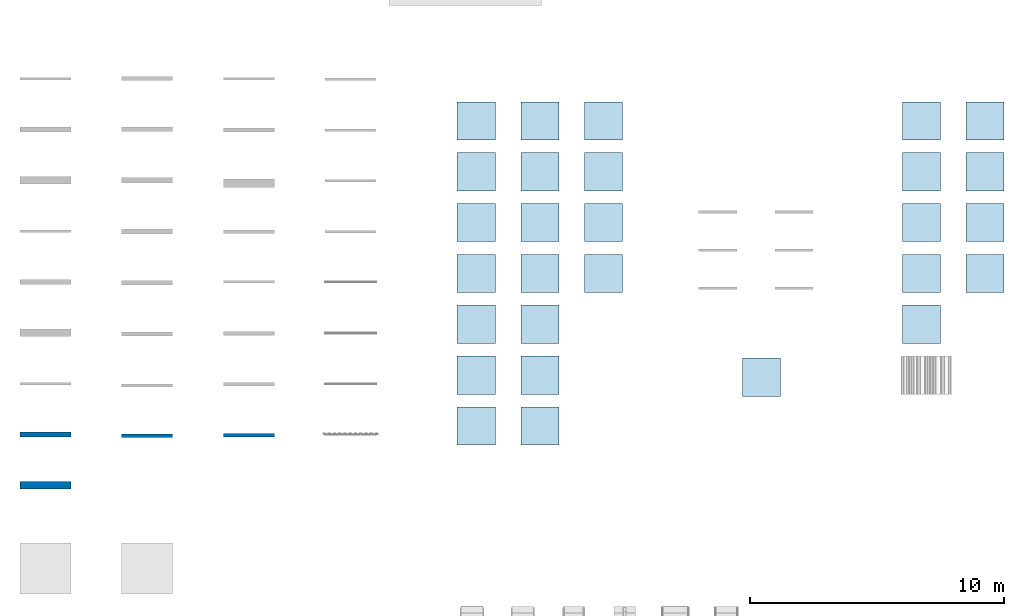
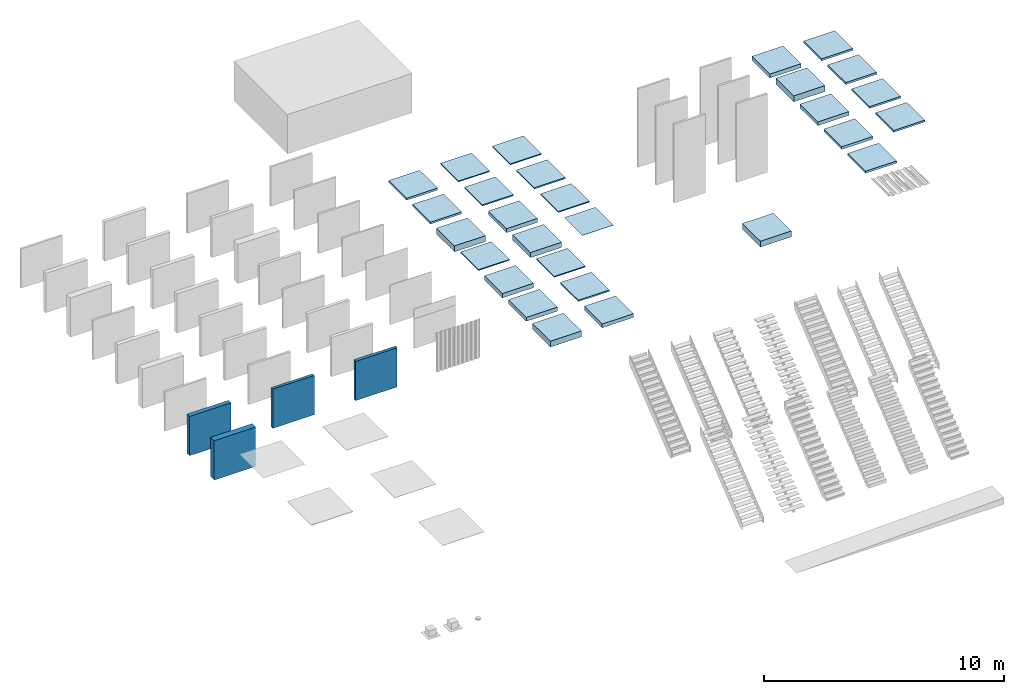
# One storey, part 1 of 11: 28 slabs, 4 walls, 9 elements without a shape of their own.
"""IFC2X3 building model written with IfcOpenShell, lengths in millimetres."""

from ifc_helpers import new_model, entity, si_unit, converted_unit, derived_unit, direction, frame, frame_2d, origin, origin_2d_with_axis, place, context, subcontext, project, spatial, rectangle, extrude, material, layer, layer_set, layer_usage, type_object, element, aggregate, save


model = new_model("IFC2X3")

# Units and contexts
model_context = context("Model", 3, precision=0.01, world=origin(), true_north=direction((6.12303176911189e-17, 1.0)))
body_context = subcontext(model_context, "Body", "Model", "MODEL_VIEW")
ifc_project = project(units=[si_unit("LENGTHUNIT", "METRE", prefix="MILLI"), si_unit("AREAUNIT", "SQUARE_METRE"), si_unit("VOLUMEUNIT", "CUBIC_METRE"), converted_unit("PLANEANGLEUNIT", "DEGREE", entity("IfcRatioMeasure", 0.0174532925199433), si_unit("PLANEANGLEUNIT", "RADIAN"), dimensions=[0, 0, 0, 0, 0, 0, 0]), si_unit("MASSUNIT", "GRAM", prefix="KILO"), si_unit("TIMEUNIT", "SECOND"), si_unit("FREQUENCYUNIT", "HERTZ"), si_unit("THERMODYNAMICTEMPERATUREUNIT", "KELVIN"), derived_unit("THERMALTRANSMITTANCEUNIT", [(si_unit("MASSUNIT", "GRAM", prefix="KILO"), 1), (si_unit("THERMODYNAMICTEMPERATUREUNIT", "KELVIN"), -1), (si_unit("TIMEUNIT", "SECOND"), -3)]), derived_unit("VOLUMETRICFLOWRATEUNIT", [(si_unit("LENGTHUNIT", "METRE"), 3), (si_unit("TIMEUNIT", "SECOND"), -1)]), si_unit("ELECTRICCURRENTUNIT", "AMPERE"), si_unit("ELECTRICVOLTAGEUNIT", "VOLT"), si_unit("POWERUNIT", "WATT")], contexts=[model_context])

# Site, building, storey
site_placement = place(None, origin())
site = spatial("IfcSite", under=ifc_project, at=site_placement, Name="Surface:5707", CompositionType="ELEMENT")
building_placement = place(site_placement, origin())
building = spatial("IfcBuilding", under=site, at=building_placement, CompositionType="ELEMENT")
storey_placement = place(building_placement, origin())
storey = spatial("IfcBuildingStorey", under=building, at=storey_placement, Name="00_begane grond", CompositionType="ELEMENT", Elevation=0.0)

# Roof, slab
ifc_material_1 = material(Name="Default Roof")
roof_1_placement = place(storey_placement, frame((34693.3473849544, -3415.0, 0.0)))
roof_1 = element("IfcRoof", 1, at=roof_1_placement, inside=storey, material=ifc_material_1, Name="Basic Roof:27_RO_generiek_200:27_RO_generiek_200 : Basic Roof:27_RO_generiek_200:4205", ObjectType="Basic Roof:27_RO_generiek_200:Basic Roof:27_RO_generiek_200:4203", ShapeType="NOTDEFINED")
slab_1_placement = place(storey_placement, frame((34693.3473849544, -3415.0, 0.0)))
slab_1 = element("IfcSlab", 2, at=slab_1_placement, material=ifc_material_1, Name="Basic Roof:27_RO_generiek_200:27_RO_generiek_200 : Basic Roof:27_RO_generiek_200:4205:1", ObjectType="Basic Roof:27_RO_generiek_200:Basic Roof:27_RO_generiek_200:4203", PredefinedType="ROOF", context=body_context, shape_type="SweptSolid", body=[
    extrude(rectangle(XDim=1500.0, YDim=1500.0, at=frame_2d((0.0, 2.1600499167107e-12), x_axis=(1.0, 0.0))), frame((750.0, 750.0, 0.0), z_axis=(0.0, 0.0, 1.0), x_axis=(0.0, 1.0, 0.0)), (0.0, 0.0, 1.0), 200.0),
])
aggregate(roof_1, [slab_1])

roof_2_placement = place(storey_placement, frame((34693.3473849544, -5415.0, 0.0)))
roof_2 = element("IfcRoof", 3, at=roof_2_placement, inside=storey, material=ifc_material_1, Name="Basic Roof:27_RO_generiek_300:27_RO_generiek_300 : Basic Roof:27_RO_generiek_300:4222", ObjectType="Basic Roof:27_RO_generiek_300:Basic Roof:27_RO_generiek_300:4220", ShapeType="NOTDEFINED")
slab_2_placement = place(storey_placement, frame((34693.3473849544, -5415.0, 0.0)))
slab_2 = element("IfcSlab", 4, at=slab_2_placement, material=ifc_material_1, Name="Basic Roof:27_RO_generiek_300:27_RO_generiek_300 : Basic Roof:27_RO_generiek_300:4222:1", ObjectType="Basic Roof:27_RO_generiek_300:Basic Roof:27_RO_generiek_300:4220", PredefinedType="ROOF", context=body_context, shape_type="SweptSolid", body=[
    extrude(rectangle(XDim=1500.0, YDim=1500.0, at=frame_2d((-5.11590769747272e-13, 2.1600499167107e-12), x_axis=(1.0, 0.0))), frame((750.0, 750.0, 0.0), z_axis=(0.0, 0.0, 1.0), x_axis=(0.0, 1.0, 0.0)), (0.0, 0.0, 1.0), 300.0),
])
aggregate(roof_2, [slab_2])

roof_3_placement = place(storey_placement, frame((37193.3473849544, -3415.0, 0.0)))
roof_3 = element("IfcRoof", 5, at=roof_3_placement, inside=storey, material=ifc_material_1, Name="Basic Roof:47_RO_isolatie_PIR_bitumen_82_80-2:47_RO_isolatie_PIR_bitumen_82_80-2 : Basic Roof:47_RO_isolatie_PIR_bitumen_82_80-2:4236", ObjectType="Basic Roof:47_RO_isolatie_PIR_bitumen_82_80-2:Basic Roof:47_RO_isolatie_PIR_bitumen_82_80-2:4234", ShapeType="NOTDEFINED")
slab_3_placement = place(storey_placement, frame((37193.3473849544, -3415.0, 0.0)))
slab_3 = element("IfcSlab", 6, at=slab_3_placement, material=ifc_material_1, Name="Basic Roof:47_RO_isolatie_PIR_bitumen_82_80-2:47_RO_isolatie_PIR_bitumen_82_80-2 : Basic Roof:47_RO_isolatie_PIR_bitumen_82_80-2:4236:1", ObjectType="Basic Roof:47_RO_isolatie_PIR_bitumen_82_80-2:Basic Roof:47_RO_isolatie_PIR_bitumen_82_80-2:4234", PredefinedType="ROOF", context=body_context, shape_type="SweptSolid", body=[
    extrude(rectangle(XDim=1500.0, YDim=1500.0, at=frame_2d((0.0, -2.1600499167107e-12), x_axis=(1.0, 0.0))), frame((750.0, 750.0, 0.0), z_axis=(0.0, 0.0, 1.0), x_axis=(0.0, 1.0, 0.0)), (0.0, 0.0, 1.0), 102.0),
])
aggregate(roof_3, [slab_3])

roof_4_placement = place(storey_placement, frame((37193.3473849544, -5415.0, 0.0)))
roof_4 = element("IfcRoof", 7, at=roof_4_placement, inside=storey, material=ifc_material_1, Name="Basic Roof:47_RO_isolatie_EPS_bitumen_102_100-2:47_RO_isolatie_EPS_bitumen_102_100-2 : Basic Roof:47_RO_isolatie_EPS_bitumen_102_100-2:4252", ObjectType="Basic Roof:47_RO_isolatie_EPS_bitumen_102_100-2:Basic Roof:47_RO_isolatie_EPS_bitumen_102_100-2:4250", ShapeType="NOTDEFINED")
slab_4_placement = place(storey_placement, frame((37193.3473849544, -5415.0, 0.0)))
slab_4 = element("IfcSlab", 8, at=slab_4_placement, material=ifc_material_1, Name="Basic Roof:47_RO_isolatie_EPS_bitumen_102_100-2:47_RO_isolatie_EPS_bitumen_102_100-2 : Basic Roof:47_RO_isolatie_EPS_bitumen_102_100-2:4252:1", ObjectType="Basic Roof:47_RO_isolatie_EPS_bitumen_102_100-2:Basic Roof:47_RO_isolatie_EPS_bitumen_102_100-2:4250", PredefinedType="ROOF", context=body_context, shape_type="SweptSolid", body=[
    extrude(rectangle(XDim=1500.0, YDim=1500.0, at=frame_2d((-5.11590769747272e-13, -2.1600499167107e-12), x_axis=(1.0, 0.0))), frame((750.0, 750.0, 0.0), z_axis=(0.0, 0.0, 1.0), x_axis=(0.0, 1.0, 0.0)), (0.0, 0.0, 1.0), 102.0),
])
aggregate(roof_4, [slab_4])

roof_5_placement = place(storey_placement, frame((34693.3473849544, -7415.0, 0.0)))
roof_5 = element("IfcRoof", 9, at=roof_5_placement, inside=storey, material=ifc_material_1, Name="Basic Roof:27_RO_hout_underlayment_189_171-18:27_RO_hout_underlayment_189_171-18 : Basic Roof:27_RO_hout_underlayment_189_171-18:4266", ObjectType="Basic Roof:27_RO_hout_underlayment_189_171-18:Basic Roof:27_RO_hout_underlayment_189_171-18:4264", ShapeType="NOTDEFINED")
slab_5_placement = place(storey_placement, frame((34693.3473849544, -7415.0, 0.0)))
slab_5 = element("IfcSlab", 10, at=slab_5_placement, material=ifc_material_1, Name="Basic Roof:27_RO_hout_underlayment_189_171-18:27_RO_hout_underlayment_189_171-18 : Basic Roof:27_RO_hout_underlayment_189_171-18:4266:1", ObjectType="Basic Roof:27_RO_hout_underlayment_189_171-18:Basic Roof:27_RO_hout_underlayment_189_171-18:4264", PredefinedType="ROOF", context=body_context, shape_type="SweptSolid", body=[
    extrude(rectangle(XDim=1500.0, YDim=1500.0, at=frame_2d((5.11590769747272e-13, 2.1600499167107e-12), x_axis=(1.0, 0.0))), frame((750.0, 750.0, 0.0), z_axis=(0.0, 0.0, 1.0), x_axis=(0.0, 1.0, 0.0)), (0.0, 0.0, 1.0), 189.0),
])
aggregate(roof_5, [slab_5])

roof_6_placement = place(storey_placement, frame((34693.3473849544, -9415.0, 0.0)))
roof_6 = element("IfcRoof", 11, at=roof_6_placement, inside=storey, material=ifc_material_1, Name="Basic Roof:27_RO_dakplaat_enkelschalig_PIR_135_33-90-12:27_RO_dakplaat_enkelschalig_PIR_135_33-90-12 : Basic Roof:27_RO_dakplaat_enkelschalig_PIR_135_33-90-12:4280", ObjectType="Basic Roof:27_RO_dakplaat_enkelschalig_PIR_135_33-90-12:Basic Roof:27_RO_dakplaat_enkelschalig_PIR_135_33-90-12:4278", ShapeType="NOTDEFINED")
slab_6_placement = place(storey_placement, frame((34693.3473849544, -9415.0, 0.0)))
slab_6 = element("IfcSlab", 12, at=slab_6_placement, material=ifc_material_1, Name="Basic Roof:27_RO_dakplaat_enkelschalig_PIR_135_33-90-12:27_RO_dakplaat_enkelschalig_PIR_135_33-90-12 : Basic Roof:27_RO_dakplaat_enkelschalig_PIR_135_33-90-12:4280:1", ObjectType="Basic Roof:27_RO_dakplaat_enkelschalig_PIR_135_33-90-12:Basic Roof:27_RO_dakplaat_enkelschalig_PIR_135_33-90-12:4278", PredefinedType="ROOF", context=body_context, shape_type="SweptSolid", body=[
    extrude(rectangle(XDim=1500.0, YDim=1500.0, at=frame_2d((5.11590769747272e-13, 2.1600499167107e-12), x_axis=(1.0, 0.0))), frame((750.0, 750.0, 0.0), z_axis=(0.0, 0.0, 1.0), x_axis=(0.0, 1.0, 0.0)), (0.0, 0.0, 1.0), 135.0),
])
aggregate(roof_6, [slab_6])

roof_7_placement = place(storey_placement, frame((37193.3473849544, -7415.0, 0.0)))
roof_7 = element("IfcRoof", 13, at=roof_7_placement, inside=storey, material=ifc_material_1, Name="Basic Roof:47_RO_dakpan_grijs_300x300:47_RO_dakpan_grijs_300x300 : Basic Roof:47_RO_dakpan_grijs_300x300:4294", ObjectType="Basic Roof:47_RO_dakpan_grijs_300x300:Basic Roof:47_RO_dakpan_grijs_300x300:4292", ShapeType="NOTDEFINED")
slab_7_placement = place(storey_placement, frame((37193.3473849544, -7415.0, 0.0)))
slab_7 = element("IfcSlab", 14, at=slab_7_placement, material=ifc_material_1, Name="Basic Roof:47_RO_dakpan_grijs_300x300:47_RO_dakpan_grijs_300x300 : Basic Roof:47_RO_dakpan_grijs_300x300:4294:1", ObjectType="Basic Roof:47_RO_dakpan_grijs_300x300:Basic Roof:47_RO_dakpan_grijs_300x300:4292", PredefinedType="ROOF", context=body_context, shape_type="SweptSolid", body=[
    extrude(rectangle(XDim=1500.0, YDim=1500.0, at=frame_2d((5.11590769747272e-13, -2.1600499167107e-12), x_axis=(1.0, 0.0))), frame((750.0, 750.0, 0.0), z_axis=(0.0, 0.0, 1.0), x_axis=(0.0, 1.0, 0.0)), (0.0, 0.0, 1.0), 92.0),
])
aggregate(roof_7, [slab_7])

roof_8_placement = place(storey_placement, frame((37193.3473849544, -9415.0, 0.0)))
roof_8 = element("IfcRoof", 15, at=roof_8_placement, inside=storey, material=ifc_material_1, Name="Basic Roof:47_RO_dakpan_rood_300x300:47_RO_dakpan_rood_300x300 : Basic Roof:47_RO_dakpan_rood_300x300:4308", ObjectType="Basic Roof:47_RO_dakpan_rood_300x300:Basic Roof:47_RO_dakpan_rood_300x300:4306", ShapeType="NOTDEFINED")
slab_8_placement = place(storey_placement, frame((37193.3473849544, -9415.0, 0.0)))
slab_8 = element("IfcSlab", 16, at=slab_8_placement, material=ifc_material_1, Name="Basic Roof:47_RO_dakpan_rood_300x300:47_RO_dakpan_rood_300x300 : Basic Roof:47_RO_dakpan_rood_300x300:4308:1", ObjectType="Basic Roof:47_RO_dakpan_rood_300x300:Basic Roof:47_RO_dakpan_rood_300x300:4306", PredefinedType="ROOF", context=body_context, shape_type="SweptSolid", body=[
    extrude(rectangle(XDim=1500.0, YDim=1500.0, at=frame_2d((5.11590769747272e-13, -2.1600499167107e-12), x_axis=(1.0, 0.0))), frame((750.0, 750.0, 0.0), z_axis=(0.0, 0.0, 1.0), x_axis=(0.0, 1.0, 0.0)), (0.0, 0.0, 1.0), 92.0),
])
aggregate(roof_8, [slab_8])

roof_9_placement = place(storey_placement, frame((34693.3473849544, -11415.0, 0.0)))
roof_9 = element("IfcRoof", 17, at=roof_9_placement, inside=storey, material=ifc_material_1, Name="Basic Roof:27_RO_dakplaat_sandwich_PIR_106_20-3-80-3:27_RO_dakplaat_sandwich_PIR_106_20-3-80-3 : Basic Roof:27_RO_dakplaat_sandwich_PIR_106_20-3-80-3:4322", ObjectType="Basic Roof:27_RO_dakplaat_sandwich_PIR_106_20-3-80-3:Basic Roof:27_RO_dakplaat_sandwich_PIR_106_20-3-80-3:4320", ShapeType="NOTDEFINED")
slab_9_placement = place(storey_placement, frame((34693.3473849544, -11415.0, 0.0)))
slab_9 = element("IfcSlab", 18, at=slab_9_placement, material=ifc_material_1, Name="Basic Roof:27_RO_dakplaat_sandwich_PIR_106_20-3-80-3:27_RO_dakplaat_sandwich_PIR_106_20-3-80-3 : Basic Roof:27_RO_dakplaat_sandwich_PIR_106_20-3-80-3:4322:1", ObjectType="Basic Roof:27_RO_dakplaat_sandwich_PIR_106_20-3-80-3:Basic Roof:27_RO_dakplaat_sandwich_PIR_106_20-3-80-3:4320", PredefinedType="ROOF", context=body_context, shape_type="SweptSolid", body=[
    extrude(rectangle(XDim=1500.0, YDim=1500.0, at=frame_2d((1.08002495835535e-12, 2.1600499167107e-12), x_axis=(1.0, 0.0))), frame((750.0, 750.0, 0.0), z_axis=(0.0, 0.0, 1.0), x_axis=(0.0, 1.0, 0.0)), (0.0, 0.0, 1.0), 106.0),
])
aggregate(roof_9, [slab_9])

# Slabs
ifc_material_2 = material(Name="Default")
ifc_layer_1 = layer(ifc_material_2, 100.0)
ifc_layer_set_1 = layer_set([ifc_layer_1], Name="Floor:Floor:13_FL_generiek_100")
ifc_layer_usage_1 = layer_usage(ifc_layer_set_1, "AXIS3", "POSITIVE", 0.0)
slab_10_placement = place(storey_placement, origin())
element("IfcSlab", 19, at=slab_10_placement, inside=storey, material=ifc_layer_usage_1, Name="Floor:Floor:13_FL_generiek_100:5911", ObjectType="Floor:Floor:13_FL_generiek_100", PredefinedType="FLOOR", context=body_context, shape_type="SweptSolid", body=[
    extrude(rectangle(XDim=1500.0, YDim=1500.0, at=frame_2d((0.0, -1.08002495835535e-12), x_axis=(1.0, 0.0))), frame((17943.3473849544, -2665.0, 0.0), z_axis=(0.0, 0.0, -1.0), x_axis=(0.0, 1.0, 0.0)), (0.0, 0.0, 1.0), 100.0),
])
ifc_layer_2 = layer(ifc_material_2, 100.0)
ifc_layer_set_2 = layer_set([ifc_layer_2], Name="Floor:Floor:23_FL_generiek_100")
ifc_layer_usage_2 = layer_usage(ifc_layer_set_2, "AXIS3", "POSITIVE", 0.0)
slab_11_placement = place(storey_placement, origin())
element("IfcSlab", 20, at=slab_11_placement, inside=storey, material=ifc_layer_usage_2, Name="Floor:Floor:23_FL_generiek_100:5928", ObjectType="Floor:Floor:23_FL_generiek_100", PredefinedType="FLOOR", context=body_context, shape_type="SweptSolid", body=[
    extrude(rectangle(XDim=1500.0, YDim=1500.0, at=frame_2d((-5.11590769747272e-13, -1.08002495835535e-12), x_axis=(1.0, 0.0))), frame((17943.3473849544, -4665.0, 0.0), z_axis=(0.0, 0.0, -1.0), x_axis=(0.0, 1.0, 0.0)), (0.0, 0.0, 1.0), 100.0),
])
ifc_layer_3 = layer(ifc_material_2, 300.0)
ifc_layer_set_3 = layer_set([ifc_layer_3], Name="Floor:Floor:23_FL_generiek_300")
ifc_layer_usage_3 = layer_usage(ifc_layer_set_3, "AXIS3", "POSITIVE", 0.0)
slab_12_placement = place(storey_placement, origin())
element("IfcSlab", 21, at=slab_12_placement, inside=storey, material=ifc_layer_usage_3, Name="Floor:Floor:23_FL_generiek_300:5936", ObjectType="Floor:Floor:23_FL_generiek_300", PredefinedType="FLOOR", context=body_context, shape_type="SweptSolid", body=[
    extrude(rectangle(XDim=1500.0, YDim=1500.0, at=frame_2d((5.11590769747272e-13, -1.08002495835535e-12), x_axis=(1.0, 0.0))), frame((17943.3473849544, -6665.0, 0.0), z_axis=(0.0, 0.0, -1.0), x_axis=(0.0, 1.0, 0.0)), (0.0, 0.0, 1.0), 300.0),
])
ifc_material_3 = material(Name="11_werkvloer_stampbeton")
ifc_layer_4 = layer(ifc_material_3, 50.0)
ifc_layer_set_4 = layer_set([ifc_layer_4], Name="Floor:Floor:11_FL_werkvloer_stampbeton_50")
ifc_layer_usage_4 = layer_usage(ifc_layer_set_4, "AXIS3", "POSITIVE", 0.0)
slab_13_placement = place(storey_placement, origin())
element("IfcSlab", 22, at=slab_13_placement, inside=storey, material=ifc_layer_usage_4, Name="Floor:Floor:11_FL_werkvloer_stampbeton_50:5945", ObjectType="Floor:Floor:11_FL_werkvloer_stampbeton_50", PredefinedType="FLOOR", context=body_context, shape_type="SweptSolid", body=[
    extrude(rectangle(XDim=1500.0, YDim=1500.0, at=frame_2d((5.11590769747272e-13, -1.08002495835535e-12), x_axis=(1.0, 0.0))), frame((17943.3473849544, -8665.0, 0.0), z_axis=(0.0, 0.0, -1.0), x_axis=(0.0, 1.0, 0.0)), (0.0, 0.0, 1.0), 50.0),
])
ifc_material_4 = material(Name="13_beton_ihwg_C20/25")
ifc_layer_5 = layer(ifc_material_4, 120.0)
ifc_material_5 = material(Name="20_isolatie_EPS")
ifc_layer_6 = layer(ifc_material_5, 100.0)
ifc_material_6 = material(Name="11_bodemafsluiter_folie")
ifc_layer_7 = layer(ifc_material_6, 2.0)
ifc_layer_set_5 = layer_set([ifc_layer_5, ifc_layer_6, ifc_layer_7], Name="Floor:Floor:13_FL_ihwg_beton_geïsoleerd_222_120-100-2")
ifc_layer_usage_5 = layer_usage(ifc_layer_set_5, "AXIS3", "POSITIVE", 0.0)
slab_14_placement = place(storey_placement, origin())
element("IfcSlab", 23, at=slab_14_placement, inside=storey, material=ifc_layer_usage_5, Name="Floor:Floor:13_FL_ihwg_beton_geïsoleerd_222_120-100-2:5953", ObjectType="Floor:Floor:13_FL_ihwg_beton_geïsoleerd_222_120-100-2", PredefinedType="FLOOR", context=body_context, shape_type="SweptSolid", body=[
    extrude(rectangle(XDim=1500.0, YDim=1500.0, at=frame_2d((1.08002495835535e-12, -1.08002495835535e-12), x_axis=(1.0, 0.0))), frame((17943.3473849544, -10665.0, 0.0), z_axis=(0.0, 0.0, -1.0), x_axis=(0.0, 1.0, 0.0)), (0.0, 0.0, 1.0), 222.0),
])
ifc_layer_8 = layer(ifc_material_4, 200.0)
ifc_layer_set_6 = layer_set([ifc_layer_8], Name="Floor:Floor:23_FL_ihwg_beton_200")
ifc_layer_usage_6 = layer_usage(ifc_layer_set_6, "AXIS3", "POSITIVE", 0.0)
slab_15_placement = place(storey_placement, origin())
element("IfcSlab", 24, at=slab_15_placement, inside=storey, material=ifc_layer_usage_6, Name="Floor:Floor:23_FL_ihwg_beton_200:5961", ObjectType="Floor:Floor:23_FL_ihwg_beton_200", PredefinedType="FLOOR", context=body_context, shape_type="SweptSolid", body=[
    extrude(rectangle(XDim=1500.0, YDim=1500.0, at=frame_2d((1.08002495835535e-12, -1.08002495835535e-12), x_axis=(1.0, 0.0))), frame((17943.3473849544, -12665.0, 0.0), z_axis=(0.0, 0.0, -1.0), x_axis=(0.0, 1.0, 0.0)), (0.0, 0.0, 1.0), 200.0),
])
ifc_layer_9 = layer(ifc_material_4, 300.0)
ifc_layer_set_7 = layer_set([ifc_layer_9], Name="Floor:Floor:23_FL_ihwg_beton_300")
ifc_layer_usage_7 = layer_usage(ifc_layer_set_7, "AXIS3", "POSITIVE", 0.0)
slab_16_placement = place(storey_placement, origin())
element("IfcSlab", 25, at=slab_16_placement, inside=storey, material=ifc_layer_usage_7, Name="Floor:Floor:23_FL_ihwg_beton_300:5969", ObjectType="Floor:Floor:23_FL_ihwg_beton_300", PredefinedType="FLOOR", context=body_context, shape_type="SweptSolid", body=[
    extrude(rectangle(XDim=1500.0, YDim=1500.0, at=frame_2d((1.08002495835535e-12, -1.08002495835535e-12), x_axis=(1.0, 0.0))), frame((17943.3473849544, -14665.0, 0.0), z_axis=(0.0, 0.0, -1.0), x_axis=(0.0, 1.0, 0.0)), (0.0, 0.0, 1.0), 300.0),
])
ifc_material_7 = material(Name="28_beton_prefab_C45_55")
ifc_layer_10 = layer(ifc_material_7, 50.0)
ifc_layer_set_8 = layer_set([ifc_layer_10], Name="Floor:Floor:23_FL_breedplaat_50")
ifc_layer_usage_8 = layer_usage(ifc_layer_set_8, "AXIS3", "POSITIVE", 0.0)
slab_17_placement = place(storey_placement, origin())
element("IfcSlab", 26, at=slab_17_placement, inside=storey, material=ifc_layer_usage_8, Name="Floor:Floor:23_FL_breedplaat_50:5977", ObjectType="Floor:Floor:23_FL_breedplaat_50", PredefinedType="FLOOR", context=body_context, shape_type="SweptSolid", body=[
    extrude(rectangle(XDim=1500.0, YDim=1500.00000000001, at=origin_2d_with_axis()), frame((20443.3473849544, -2665.0, 0.0), z_axis=(0.0, 0.0, -1.0), x_axis=(0.0, 1.0, 0.0)), (0.0, 0.0, 1.0), 50.0),
])
ifc_layer_11 = layer(ifc_material_7, 60.0)
ifc_layer_set_9 = layer_set([ifc_layer_11], Name="Floor:Floor:23_FL_breedplaat_60")
ifc_layer_usage_9 = layer_usage(ifc_layer_set_9, "AXIS3", "POSITIVE", 0.0)
slab_18_placement = place(storey_placement, origin())
element("IfcSlab", 27, at=slab_18_placement, inside=storey, material=ifc_layer_usage_9, Name="Floor:Floor:23_FL_breedplaat_60:5985", ObjectType="Floor:Floor:23_FL_breedplaat_60", PredefinedType="FLOOR", context=body_context, shape_type="SweptSolid", body=[
    extrude(rectangle(XDim=1500.0, YDim=1500.00000000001, at=frame_2d((-5.11590769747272e-13, 0.0), x_axis=(1.0, 0.0))), frame((20443.3473849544, -4665.0, 0.0), z_axis=(0.0, 0.0, -1.0), x_axis=(0.0, 1.0, 0.0)), (0.0, 0.0, 1.0), 60.0),
])
ifc_layer_12 = layer(ifc_material_7, 200.0)
ifc_layer_set_10 = layer_set([ifc_layer_12], Name="Floor:Floor:23_FL_kanaalplaat_200")
ifc_layer_usage_10 = layer_usage(ifc_layer_set_10, "AXIS3", "POSITIVE", 0.0)
slab_19_placement = place(storey_placement, origin())
element("IfcSlab", 28, at=slab_19_placement, inside=storey, material=ifc_layer_usage_10, Name="Floor:Floor:23_FL_kanaalplaat_200:5993", ObjectType="Floor:Floor:23_FL_kanaalplaat_200", PredefinedType="FLOOR", context=body_context, shape_type="SweptSolid", body=[
    extrude(rectangle(XDim=1500.0, YDim=1500.00000000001, at=frame_2d((5.11590769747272e-13, 0.0), x_axis=(1.0, 0.0))), frame((20443.3473849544, -6665.0, 0.0), z_axis=(0.0, 0.0, -1.0), x_axis=(0.0, 1.0, 0.0)), (0.0, 0.0, 1.0), 200.0),
])
ifc_layer_13 = layer(ifc_material_7, 260.0)
ifc_layer_set_11 = layer_set([ifc_layer_13], Name="Floor:Floor:23_FL_kanaalplaat_260")
ifc_layer_usage_11 = layer_usage(ifc_layer_set_11, "AXIS3", "POSITIVE", 0.0)
slab_20_placement = place(storey_placement, origin())
element("IfcSlab", 29, at=slab_20_placement, inside=storey, material=ifc_layer_usage_11, Name="Floor:Floor:23_FL_kanaalplaat_260:6001", ObjectType="Floor:Floor:23_FL_kanaalplaat_260", PredefinedType="FLOOR", context=body_context, shape_type="SweptSolid", body=[
    extrude(rectangle(XDim=1500.0, YDim=1500.00000000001, at=frame_2d((5.11590769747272e-13, 0.0), x_axis=(1.0, 0.0))), frame((20443.3473849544, -8665.0, 0.0), z_axis=(0.0, 0.0, -1.0), x_axis=(0.0, 1.0, 0.0)), (0.0, 0.0, 1.0), 260.0),
])
ifc_layer_14 = layer(ifc_material_4, 50.0)
ifc_layer_set_12 = layer_set([ifc_layer_14], Name="Floor:Floor:23_FL_zwaluwstaartvloer_ihwg_beton_50")
ifc_layer_usage_12 = layer_usage(ifc_layer_set_12, "AXIS3", "POSITIVE", 0.0)
slab_21_placement = place(storey_placement, origin())
element("IfcSlab", 30, at=slab_21_placement, inside=storey, material=ifc_layer_usage_12, Name="Floor:Floor:23_FL_zwaluwstaartvloer_ihwg_beton_50:6009", ObjectType="Floor:Floor:23_FL_zwaluwstaartvloer_ihwg_beton_50", PredefinedType="FLOOR", context=body_context, shape_type="SweptSolid", body=[
    extrude(rectangle(XDim=1500.0, YDim=1500.0, at=frame_2d((1.08002495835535e-12, 0.0), x_axis=(1.0, 0.0))), frame((20443.3473849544, -10665.0, 0.0), z_axis=(0.0, 0.0, -1.0), x_axis=(0.0, 1.0, 0.0)), (0.0, 0.0, 1.0), 50.0),
])
ifc_layer_15 = layer(ifc_material_4, 75.0)
ifc_layer_set_13 = layer_set([ifc_layer_15], Name="Floor:Floor:23_FL_zwaluwstaartvloer_ihwg_beton_75")
ifc_layer_usage_13 = layer_usage(ifc_layer_set_13, "AXIS3", "POSITIVE", 0.0)
slab_22_placement = place(storey_placement, origin())
element("IfcSlab", 31, at=slab_22_placement, inside=storey, material=ifc_layer_usage_13, Name="Floor:Floor:23_FL_zwaluwstaartvloer_ihwg_beton_75:6017", ObjectType="Floor:Floor:23_FL_zwaluwstaartvloer_ihwg_beton_75", PredefinedType="FLOOR", context=body_context, shape_type="SweptSolid", body=[
    extrude(rectangle(XDim=1500.0, YDim=1500.0, at=frame_2d((1.08002495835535e-12, 0.0), x_axis=(1.0, 0.0))), frame((20443.3473849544, -12665.0, 0.0), z_axis=(0.0, 0.0, -1.0), x_axis=(0.0, 1.0, 0.0)), (0.0, 0.0, 1.0), 75.0),
])
ifc_material_8 = material(Name="23_beplating_underlayment")
ifc_layer_16 = layer(ifc_material_8, 18.0)
ifc_material_9 = material(Name="23_houten_balklaag_geventileerd")
ifc_layer_17 = layer(ifc_material_9, 171.0)
ifc_layer_set_14 = layer_set([ifc_layer_16, ifc_layer_17], Name="Floor:Floor:23_FL_hout_underlayment_189mm_171-18")
ifc_layer_usage_14 = layer_usage(ifc_layer_set_14, "AXIS3", "POSITIVE", 0.0)
slab_23_placement = place(storey_placement, origin())
element("IfcSlab", 32, at=slab_23_placement, inside=storey, material=ifc_layer_usage_14, Name="Floor:Floor:23_FL_hout_underlayment_189mm_171-18:6026", ObjectType="Floor:Floor:23_FL_hout_underlayment_189mm_171-18", PredefinedType="FLOOR", context=body_context, shape_type="SweptSolid", body=[
    extrude(rectangle(XDim=1500.0, YDim=1500.00000000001, at=frame_2d((1.08002495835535e-12, 0.0), x_axis=(1.0, 0.0))), frame((20443.3473849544, -14665.0, 0.0), z_axis=(0.0, 0.0, -1.0), x_axis=(0.0, 1.0, 0.0)), (0.0, 0.0, 1.0), 189.0),
])
ifc_material_10 = material(Name="43_dekvloer_zandcement")
ifc_layer_18 = layer(ifc_material_10, 50.0)
ifc_layer_set_15 = layer_set([ifc_layer_18], Name="Floor:Floor:43_FL_cementdekvloer_50")
ifc_layer_usage_15 = layer_usage(ifc_layer_set_15, "AXIS3", "POSITIVE", 0.0)
slab_24_placement = place(storey_placement, origin())
element("IfcSlab", 33, at=slab_24_placement, inside=storey, material=ifc_layer_usage_15, Name="Floor:Floor:43_FL_cementdekvloer_50:6034", ObjectType="Floor:Floor:43_FL_cementdekvloer_50", PredefinedType="FLOOR", context=body_context, shape_type="SweptSolid", body=[
    extrude(rectangle(XDim=1500.0, YDim=1500.00000000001, at=origin_2d_with_axis()), frame((22943.3473849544, -2665.0, 0.0), z_axis=(0.0, 0.0, -1.0), x_axis=(0.0, 1.0, 0.0)), (0.0, 0.0, 1.0), 50.0),
])
ifc_layer_19 = layer(ifc_material_10, 70.0)
ifc_layer_set_16 = layer_set([ifc_layer_19], Name="Floor:Floor:43_FL_cementdekvloer_70")
ifc_layer_usage_16 = layer_usage(ifc_layer_set_16, "AXIS3", "POSITIVE", 0.0)
slab_25_placement = place(storey_placement, origin())
element("IfcSlab", 34, at=slab_25_placement, inside=storey, material=ifc_layer_usage_16, Name="Floor:Floor:43_FL_cementdekvloer_70:6042", ObjectType="Floor:Floor:43_FL_cementdekvloer_70", PredefinedType="FLOOR", context=body_context, shape_type="SweptSolid", body=[
    extrude(rectangle(XDim=1500.0, YDim=1500.00000000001, at=frame_2d((-5.11590769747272e-13, 0.0), x_axis=(1.0, 0.0))), frame((22943.3473849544, -4665.0, 0.0), z_axis=(0.0, 0.0, -1.0), x_axis=(0.0, 1.0, 0.0)), (0.0, 0.0, 1.0), 70.0),
])
ifc_material_11 = material(Name="43_vloerafwerking_hout_planken")
ifc_layer_20 = layer(ifc_material_11, 22.0)
ifc_material_12 = material(Name="20_isolatie_steenwol")
ifc_layer_21 = layer(ifc_material_12, 30.0)
ifc_layer_set_17 = layer_set([ifc_layer_20, ifc_layer_21], Name="Floor:Floor:43_FL_eiken_planken 150_geluidsisolatie_52_22-30")
ifc_layer_usage_17 = layer_usage(ifc_layer_set_17, "AXIS3", "POSITIVE", 0.0)
slab_26_placement = place(storey_placement, origin())
element("IfcSlab", 35, at=slab_26_placement, inside=storey, material=ifc_layer_usage_17, Name="Floor:Floor:43_FL_eiken_planken 150_geluidsisolatie_52_22-30:6051", ObjectType="Floor:Floor:43_FL_eiken_planken 150_geluidsisolatie_52_22-30", PredefinedType="FLOOR", context=body_context, shape_type="SweptSolid", body=[
    extrude(rectangle(XDim=1500.0, YDim=1500.00000000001, at=frame_2d((5.11590769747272e-13, 0.0), x_axis=(1.0, 0.0))), frame((22943.3473849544, -6665.0, 0.0), z_axis=(0.0, 0.0, -1.0), x_axis=(0.0, 1.0, 0.0)), (0.0, 0.0, 1.0), 52.0),
])
ifc_material_13 = material(Name="43_tapijt_rood")
ifc_layer_22 = layer(ifc_material_13, 9.0)
ifc_layer_set_18 = layer_set([ifc_layer_22], Name="Floor:Floor:43_FL_tapijt_rood")
ifc_layer_usage_18 = layer_usage(ifc_layer_set_18, "AXIS3", "POSITIVE", 0.0)
slab_27_placement = place(storey_placement, origin())
element("IfcSlab", 36, at=slab_27_placement, inside=storey, material=ifc_layer_usage_18, Name="Floor:Floor:43_FL_tapijt_rood:6059", ObjectType="Floor:Floor:43_FL_tapijt_rood", PredefinedType="FLOOR", context=body_context, shape_type="SweptSolid", body=[
    extrude(rectangle(XDim=1500.0, YDim=1500.00000000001, at=frame_2d((5.11590769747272e-13, 0.0), x_axis=(1.0, 0.0))), frame((22943.3473849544, -8665.0, 0.0), z_axis=(0.0, 0.0, -1.0), x_axis=(0.0, 1.0, 0.0)), (0.0, 0.0, 1.0), 9.0),
])
ifc_material_14 = material(Name="90_bouwplaats")
ifc_layer_23 = layer(ifc_material_14, 300.0)
ifc_layer_set_19 = layer_set([ifc_layer_23], Name="Floor:Pad:90_SITE_bouwplaats")
ifc_layer_usage_19 = layer_usage(ifc_layer_set_19, "AXIS3", "POSITIVE", 0.0)
slab_28_placement = place(storey_placement, origin())
element("IfcSlab", 37, at=slab_28_placement, inside=storey, material=ifc_layer_usage_19, Name="Floor:Pad:90_SITE_bouwplaats:6081", ObjectType="Floor:Pad:90_SITE_bouwplaats", PredefinedType="FLOOR", context=body_context, shape_type="SweptSolid", body=[
    extrude(rectangle(XDim=1499.99999999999, YDim=1500.00000000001, at=frame_2d((0.0, -2.1600499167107e-12), x_axis=(1.0, 0.0))), frame((29163.3473849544, -12745.0, 0.0), z_axis=(0.0, 0.0, -1.0), x_axis=(0.0, 1.0, 0.0)), (0.0, 0.0, 1.0), 300.0),
])

# Walls
ifc_material_15 = material(Name="20_baksteen_wf_210x100x50_10mm_voeg_halfsteens_rood_genuanceerd")
ifc_layer_24 = layer(ifc_material_15, 210.0)
ifc_layer_set_20 = layer_set([ifc_layer_24], Name="Basic Wall:Basic Wall:21_WA_mw_210")
ifc_layer_usage_20 = layer_usage(ifc_layer_set_20, "AXIS2", "NEGATIVE", 105.0)
wall_type_1 = type_object("IfcWallType", Name="Basic Wall:Basic Wall:21_WA_mw_210", PredefinedType="STANDARD", material=ifc_layer_set_20)
wall_1_placement = place(storey_placement, frame((0.0, -15000.0, 0.0)))
element("IfcWallStandardCase", 38, at=wall_1_placement, inside=storey, type_object=wall_type_1, material=ifc_layer_usage_20, Name="Basic Wall:Basic Wall:21_WA_mw_210:5879", ObjectType="Basic Wall:Basic Wall:21_WA_mw_210:5786", context=body_context, shape_type="SweptSolid", body=[
    extrude(rectangle(XDim=2000.0, YDim=210.0, at=frame_2d((1000.0, 0.0), x_axis=(-1.0, 0.0))), origin(), (0.0, 0.0, 1.0), 2000.0),
])
ifc_layer_25 = layer(ifc_material_15, 100.0)
ifc_material_16 = material(Name="00_lucht_spouw_muur_geventileerd")
ifc_layer_26 = layer(ifc_material_16, 100.0)
ifc_layer_27 = layer(ifc_material_15, 100.0)
ifc_layer_set_21 = layer_set([ifc_layer_25, ifc_layer_26, ifc_layer_27], Name="Basic Wall:Basic Wall:21_WA_mw_spouw_mw_300_100-100-100")
ifc_layer_usage_21 = layer_usage(ifc_layer_set_21, "AXIS2", "NEGATIVE", 150.0)
wall_type_2 = type_object("IfcWallType", Name="Basic Wall:Basic Wall:21_WA_mw_spouw_mw_300_100-100-100", PredefinedType="STANDARD", material=ifc_layer_set_21)
wall_2_placement = place(storey_placement, frame((0.0, -17000.0, 0.0)))
element("IfcWallStandardCase", 39, at=wall_2_placement, inside=storey, type_object=wall_type_2, material=ifc_layer_usage_21, Name="Basic Wall:Basic Wall:21_WA_mw_spouw_mw_300_100-100-100:5880", ObjectType="Basic Wall:Basic Wall:21_WA_mw_spouw_mw_300_100-100-100:5785", context=body_context, shape_type="SweptSolid", body=[
    extrude(rectangle(XDim=2000.0, YDim=300.000000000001, at=frame_2d((1000.0, 0.0), x_axis=(-1.0, 0.0))), origin(), (0.0, 0.0, 1.0), 2000.0),
])
ifc_layer_28 = layer(ifc_material_16, 40.0)
ifc_layer_29 = layer(ifc_material_12, 100.0)
ifc_layer_set_22 = layer_set([ifc_layer_28, ifc_layer_29], Name="Basic Wall:Basic Wall:21_WA_spouw_iso-sw_140_40-100")
ifc_layer_usage_22 = layer_usage(ifc_layer_set_22, "AXIS2", "NEGATIVE", 70.0)
wall_type_3 = type_object("IfcWallType", Name="Basic Wall:Basic Wall:21_WA_spouw_iso-sw_140_40-100", PredefinedType="STANDARD", material=ifc_layer_set_22)
wall_3_placement = place(storey_placement, frame((4000.0, -15050.0, 0.0)))
element("IfcWallStandardCase", 40, at=wall_3_placement, inside=storey, type_object=wall_type_3, material=ifc_layer_usage_22, Name="Basic Wall:Basic Wall:21_WA_spouw_iso-sw_140_40-100:6091", ObjectType="Basic Wall:Basic Wall:21_WA_spouw_iso-sw_140_40-100:5735", context=body_context, shape_type="SweptSolid", body=[
    extrude(rectangle(XDim=2000.0, YDim=139.999999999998, at=frame_2d((1000.0, 0.0), x_axis=(-1.0, 0.0))), origin(), (0.0, 0.0, 1.0), 2000.0),
])
ifc_material_17 = material(Name="28_beton_ihwg_C25_30")
ifc_layer_30 = layer(ifc_material_17, 150.0)
ifc_layer_set_23 = layer_set([ifc_layer_30], Name="Basic Wall:Basic Wall:28_WA_ihwgb_C25_150")
ifc_layer_usage_23 = layer_usage(ifc_layer_set_23, "AXIS2", "NEGATIVE", 75.0)
wall_type_4 = type_object("IfcWallType", Name="Basic Wall:Basic Wall:28_WA_ihwgb_C25_150", PredefinedType="STANDARD", material=ifc_layer_set_23)
wall_4_placement = place(storey_placement, frame((8000.0, -15025.0, 0.0)))
element("IfcWallStandardCase", 41, at=wall_4_placement, inside=storey, type_object=wall_type_4, material=ifc_layer_usage_23, Name="Basic Wall:Basic Wall:28_WA_ihwgb_C25_150:6092", ObjectType="Basic Wall:Basic Wall:28_WA_ihwgb_C25_150:5734", context=body_context, shape_type="SweptSolid", body=[
    extrude(rectangle(XDim=2000.0, YDim=150.000000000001, at=frame_2d((1000.0, 0.0), x_axis=(-1.0, 0.0))), origin(), (0.0, 0.0, 1.0), 2000.0),
])

save(model, "model.ifc")
